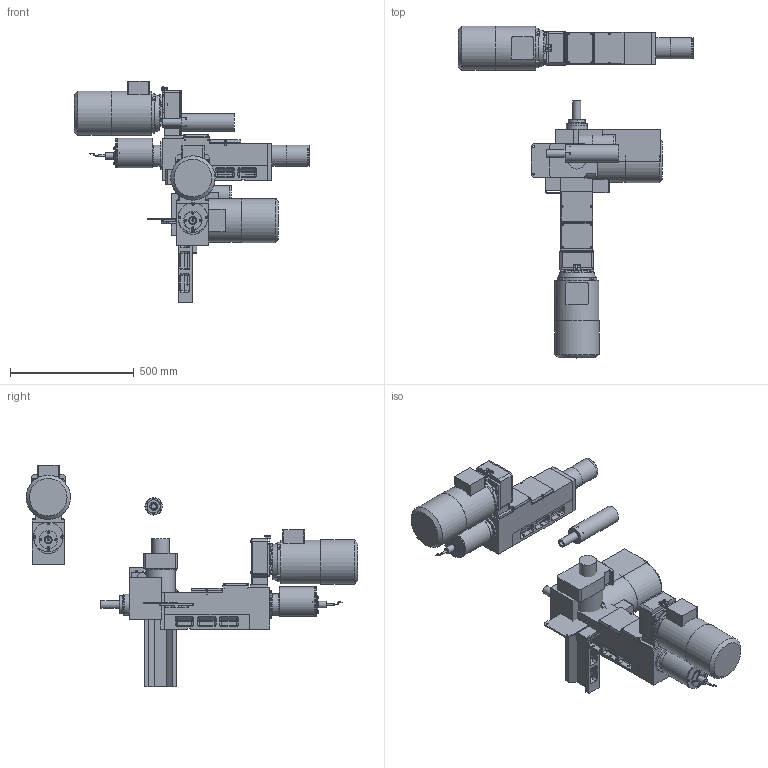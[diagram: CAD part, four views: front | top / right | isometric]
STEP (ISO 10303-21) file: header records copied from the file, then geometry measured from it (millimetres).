
FILE_DESCRIPTION( ( 'STEP AP203' ), '1' );
FILE_NAME( 'C:/Documents and Settings/Saverio/Desktop/disegni ironcad/unità serie 2/MC216 (ex MC220)/MC 216_A05_P.stp', '2014-03-25T10:13:35', ( ' ' ), ( ' ' ), 'XStep 1.0', ' ', ' ' );
FILE_SCHEMA( ( 'CONFIG_CONTROL_DESIGN' ) );
Length unit declared in the file: metre
Products named in the file (48): Assem1; Assem2; Assem3; Assem4; 1; 2; 3; 4; 5; 6; 7; 8; 9; 10; 11; 12; 13; 14; 15; 16; 17; 18; 19; 20; 21; 22; 23; 24; 25; 26; 27; 28; 29; 30; 31; 32; 33; 34; 35; 36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
Bounding box: 950 x 1338.73 x 894.21 mm (x, y, z)
Volume: 58525198.8 mm3; surface area: 4332718.3 mm2
Topology: 134 solids, 134 shells, 3185 faces, 7205 edges, 4373 vertices
Faces by surface type: plane 1689, cylinder 819, cone 442, bspline 126, sphere 60, torus 49
Full cylindrical faces by diameter (mm): 5 x69, 5.25 x12, 5.5 x33, 6.5 x18, 6.637 x15, 6.647 x12, 6.75 x16, 7 x3, 8 x3, 8.385 x3, 8.5 x48, 8.75 x18, 18 x3, 20 x3, 24 x3, 26 x3, 31.2 x3, 32 x6, 52 x3, 53 x3, 54 x6, 70 x10, 74 x6, 76 x3, 80 x8, 84.5 x4, 85 x4, 86 x3, 95 x3, 112 x3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
Entity records: 31896 total; most frequent: CARTESIAN_POINT 7893, DIRECTION 4573, ORIENTED_EDGE 4030, EDGE_CURVE 2015, AXIS2_PLACEMENT_3D 1708, EDGE_LOOP 1441, VERTEX_POINT 1383, FACE_OUTER_BOUND 1178
